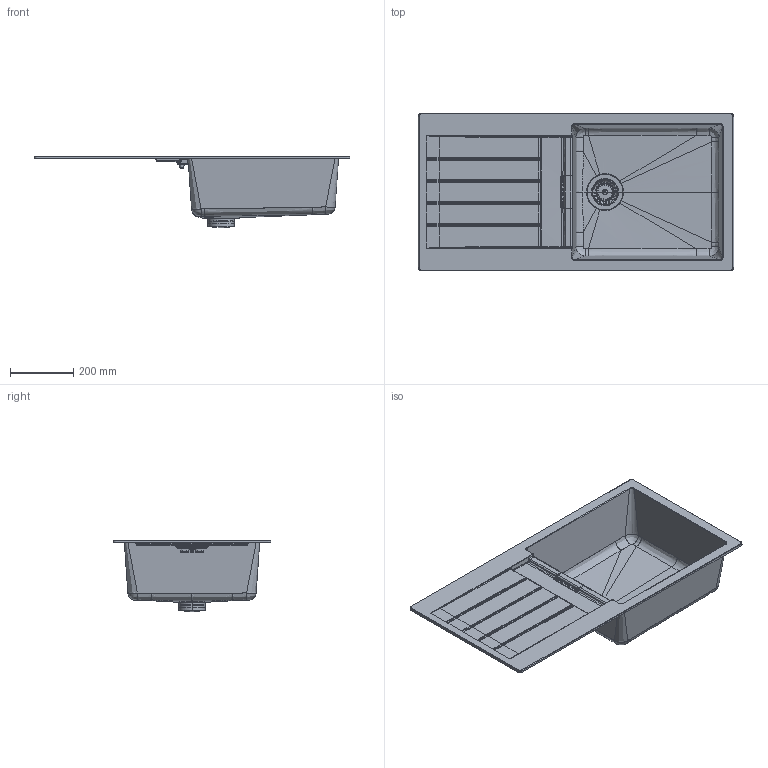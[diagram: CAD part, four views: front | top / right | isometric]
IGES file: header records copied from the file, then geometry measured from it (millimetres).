
Global section: file name: /Volumes/__KUNDEN/____01_SCHOCK/____projekte_schock/__RENDERINGS/__SPUELEN/02_3D Daten/02_PERSPEKTIVEN/Rhino/_SPU; native system: Rhinoceros ( Aug 27 2014 ); preprocessor: Trout Lake IGES 012 Aug 27 2014; date: 141104.094640; units: millimetre
Bounding box: 1000 x 500 x 227.2 mm (x, y, z)
Surface area: 854816.8 mm2 (no closed solid volume)
Topology: 0 solids, 0 shells, 626 faces, 44079 edges, 44069 vertices
Faces by surface type: bspline 626
